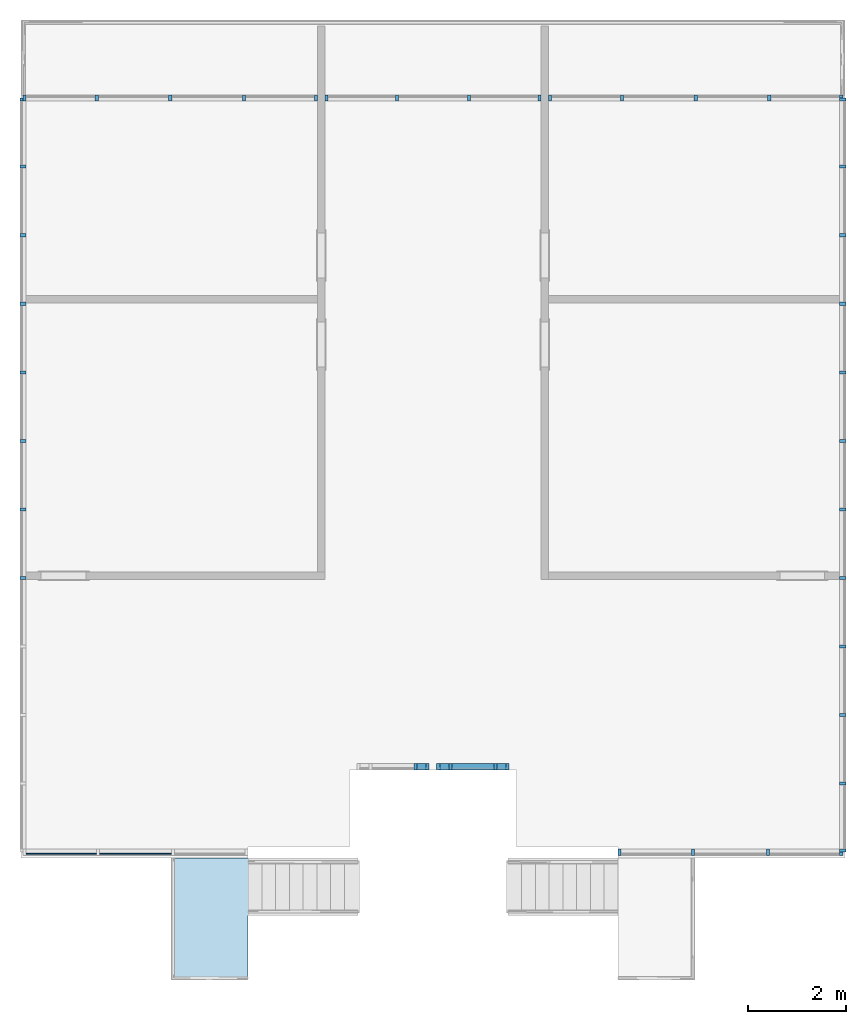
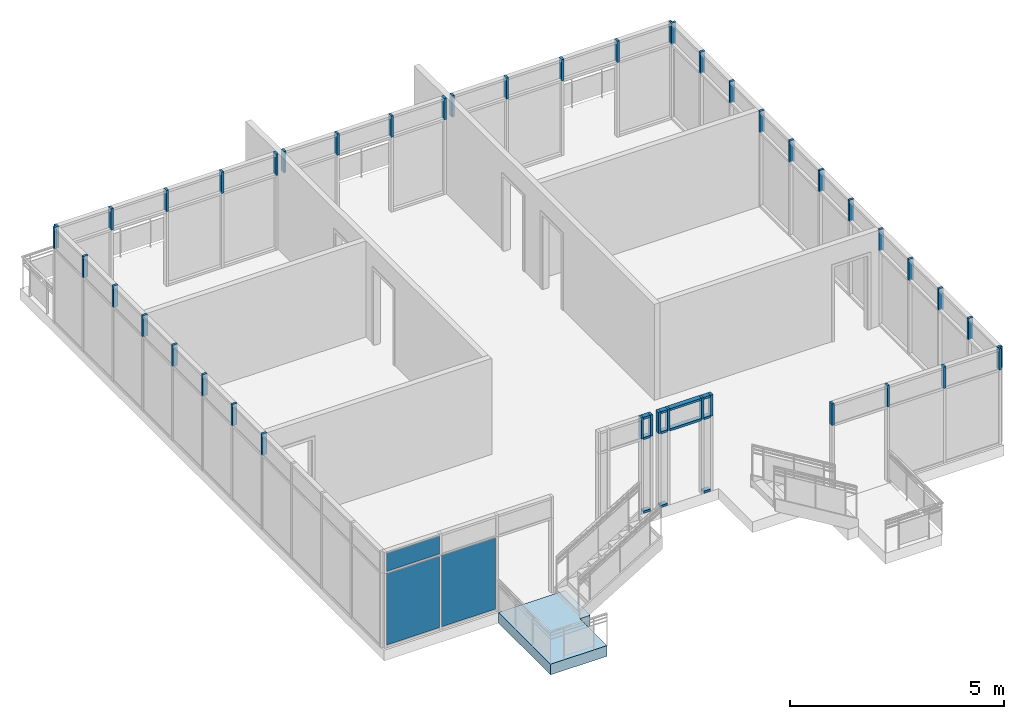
# One storey, part 4 of 11: 55 members, 3 plates, 1 slab, 9 elements without a shape of their own.
"""IFC2X3 building model written with IfcOpenShell, lengths in feet."""

import ifcopenshell
import ifcopenshell.guid

model = None  # the IFC model being written
_history = None  # IfcOwnerHistory: only IFC2X3 demands one
_inside = {}  # id of a spatial element -> (the spatial element, [elements in it])
_under = {}  # id of a project, library or spatial element -> (it, [spatial elements below it])
_declared = {}  # id of a project -> (the project, [libraries it declares])
_typed = {}  # id of a type object -> (the type object, [elements of that type])
_made_of = {}  # id of a material, layer set ... -> (it, [elements and type objects made of it])


def new_model(schema):
    """Start an empty IFC model of exactly this schema.

    Asked for "IFC4X3", IfcOpenShell would pick the latest addendum, in which some entities
    have other attributes; the version numbers below select the first issue.
    IFC2X3 requires an IfcOwnerHistory on every rooted entity: one is made here for all.
    """
    global model, _history
    if schema == "IFC4X3":
        model = ifcopenshell.file(schema_version=(4, 3, 0, 0))
    else:
        model = ifcopenshell.file(schema=schema)
    _inside.clear()
    _under.clear()
    _declared.clear()
    _typed.clear()
    _made_of.clear()
    _history = None
    if model.schema == "IFC2X3":
        org = make("IfcOrganization", Name="unknown")
        user = make(
            "IfcPersonAndOrganization",
            ThePerson=make("IfcPerson", FamilyName="unknown"),
            TheOrganization=org,
        )
        app = make(
            "IfcApplication",
            ApplicationDeveloper=org,
            Version="unknown",
            ApplicationFullName="unknown",
            ApplicationIdentifier="unknown",
        )
        _history = make(
            "IfcOwnerHistory",
            OwningUser=user,
            OwningApplication=app,
            ChangeAction="ADDED",
            CreationDate=0,
        )
    return model


def make(cls, **values):
    """One entity of the class cls with the attributes given. An attribute that is None is left unset."""
    return model.create_entity(
        cls, **{name: value for name, value in values.items() if value is not None}
    )


def entity(cls, *values):
    """Any entity or typed value of the class cls, its attributes in the order of the schema. None: left unset."""
    e = model.create_entity(cls)
    for i, value in enumerate(values):
        if value is not None:
            e[i] = value
    return e


def rooted(cls, **values):
    """An entity with a GlobalId (a new one), such as an element, a storey or a relation."""
    return make(cls, GlobalId=ifcopenshell.guid.new(), OwnerHistory=_history, **values)


def si_unit(unit_type, name, prefix=None):
    """IfcSIUnit, for example si_unit("LENGTHUNIT", "METRE", prefix="MILLI")."""
    return make("IfcSIUnit", UnitType=unit_type, Prefix=prefix, Name=name)


def converted_unit(unit_type, name, factor, base, dimensions=None, offset=None):
    """IfcConversionBasedUnit, such as the inch: factor (a typed value) times the base unit."""
    return make(
        "IfcConversionBasedUnit"
        if offset is None
        else "IfcConversionBasedUnitWithOffset",
        ConversionOffset=offset,
        Dimensions=None
        if dimensions is None
        else entity("IfcDimensionalExponents", *dimensions),
        UnitType=unit_type,
        Name=name,
        ConversionFactor=make(
            "IfcMeasureWithUnit", ValueComponent=factor, UnitComponent=base
        ),
    )


def derived_unit(unit_type, elements):
    """IfcDerivedUnit: a product of units, each with its exponent."""
    return make(
        "IfcDerivedUnit",
        Elements=[
            make("IfcDerivedUnitElement", Unit=unit, Exponent=power)
            for unit, power in elements
        ],
        UnitType=unit_type,
    )


def assignment(units):
    """IfcUnitAssignment: the units of a project."""
    return None if units is None else make("IfcUnitAssignment", Units=units)


def point(xyz):
    """IfcCartesianPoint."""
    return None if xyz is None else make("IfcCartesianPoint", Coordinates=xyz)


def direction(xyz):
    """IfcDirection."""
    return None if xyz is None else make("IfcDirection", DirectionRatios=xyz)


def frame(location, z_axis=None, x_axis=None):
    """IfcAxis2Placement3D, a coordinate frame: its origin and axes. An axis left out is left unset."""
    return make(
        "IfcAxis2Placement3D",
        Location=point(location),
        Axis=direction(z_axis),
        RefDirection=direction(x_axis),
    )


def frame_2d(location, x_axis=None):
    """IfcAxis2Placement2D, a coordinate frame in the plane: its origin and x axis."""
    return make(
        "IfcAxis2Placement2D", Location=point(location), RefDirection=direction(x_axis)
    )


def origin():
    """The frame at (0, 0, 0) with its axes left unset."""
    return frame((0.0, 0.0, 0.0))


def origin_2d_with_axis():
    """The frame at (0, 0) in the plane with the x axis (1, 0) written out."""
    return frame_2d((0.0, 0.0), x_axis=(1.0, 0.0))


def place(relative_to, where):
    """IfcLocalPlacement: puts the frame where relative to a parent placement (None: the world)."""
    return make(
        "IfcLocalPlacement", PlacementRelTo=relative_to, RelativePlacement=where
    )


def context(
    kind, dimensions, precision=None, world=None, true_north=None, identifier=None
):
    """IfcGeometricRepresentationContext, for example the 3D "Model" context."""
    return make(
        "IfcGeometricRepresentationContext",
        ContextIdentifier=identifier,
        ContextType=kind,
        CoordinateSpaceDimension=dimensions,
        Precision=precision,
        WorldCoordinateSystem=world,
        TrueNorth=true_north,
    )


def subcontext(parent, identifier, kind, view, scale=None):
    """IfcGeometricRepresentationSubContext, for example "Body" below "Model"."""
    return make(
        "IfcGeometricRepresentationSubContext",
        ContextIdentifier=identifier,
        ContextType=kind,
        ParentContext=parent,
        TargetScale=scale,
        TargetView=view,
    )


def project(units=None, contexts=None):
    """IfcProject with its units and contexts."""
    return rooted(
        "IfcProject",
        Name="project",
        RepresentationContexts=contexts,
        UnitsInContext=assignment(units),
    )


def spatial(cls, under=None, at=None, **own):
    """A site, building, storey or space (cls), placed at a placement, below another one or the project."""
    s = rooted(cls, ObjectPlacement=at, **own)
    if under is not None:
        _under.setdefault(under.id(), (under, []))[1].append(s)
    return s


def polyline(points):
    """IfcPolyline through the points."""
    return make("IfcPolyline", Points=[point(p) for p in points])


def profile(cls, at=None, kind="AREA", **sizes):
    """A parametric profile (cls). Its sizes go by their IFC names, for example OverallWidth=200.0."""
    return make(cls, ProfileType=kind, Position=at, **sizes)


def rectangle(**sizes):
    """IfcRectangleProfileDef."""
    return profile("IfcRectangleProfileDef", **sizes)


def outline(outer, holes=None, kind="AREA"):
    """IfcArbitraryClosedProfileDef: a profile drawn as a closed curve; with holes, ...WithVoids."""
    if holes is None:
        return make("IfcArbitraryClosedProfileDef", ProfileType=kind, OuterCurve=outer)
    return make(
        "IfcArbitraryProfileDefWithVoids",
        ProfileType=kind,
        OuterCurve=outer,
        InnerCurves=holes,
    )


def extrude(swept, where, along, depth):
    """IfcExtrudedAreaSolid: the profile swept, set in the frame where, extruded along a direction by depth."""
    return make(
        "IfcExtrudedAreaSolid",
        SweptArea=swept,
        Position=where,
        ExtrudedDirection=direction(along),
        Depth=depth,
    )


def shape(context_of_items, identifier, shape_type, items):
    """IfcShapeRepresentation: the items that make up one representation, for example the "Body"."""
    return make(
        "IfcShapeRepresentation",
        ContextOfItems=context_of_items,
        RepresentationIdentifier=identifier,
        RepresentationType=shape_type,
        Items=items,
    )


def source(mapping_origin, context_of_items, identifier, shape_type, items):
    """IfcRepresentationMap: a shape defined once, which mapped items show again and again."""
    return make(
        "IfcRepresentationMap",
        MappingOrigin=mapping_origin,
        MappedRepresentation=shape(context_of_items, identifier, shape_type, items),
    )


def transform(
    local_origin,
    x_axis=None,
    y_axis=None,
    z_axis=None,
    scale=None,
    scale2=None,
    scale3=None,
    uniform=True,
):
    """IfcCartesianTransformationOperator3D, or its non-uniform kind. x_axis, y_axis, z_axis: its Axis1, 2, 3."""
    if uniform:
        return make(
            "IfcCartesianTransformationOperator3D",
            Axis1=direction(x_axis),
            Axis2=direction(y_axis),
            LocalOrigin=point(local_origin),
            Scale=scale,
            Axis3=direction(z_axis),
        )
    return make(
        "IfcCartesianTransformationOperator3DnonUniform",
        Axis1=direction(x_axis),
        Axis2=direction(y_axis),
        LocalOrigin=point(local_origin),
        Scale=scale,
        Axis3=direction(z_axis),
        Scale2=scale2,
        Scale3=scale3,
    )


def mapped(mapping_source, mapping_target):
    """IfcMappedItem: shows the shape of a source again, moved by a transform."""
    return make(
        "IfcMappedItem", MappingSource=mapping_source, MappingTarget=mapping_target
    )


def material(Name=None, Category=None):
    """IfcMaterial."""
    return make("IfcMaterial", Name=Name, Category=Category)


def layer(
    of_material, thickness, ventilated=None, Name=None, Category=None, Priority=None
):
    """IfcMaterialLayer: one layer of a wall or slab, of a material (None: an air gap)."""
    return make(
        "IfcMaterialLayer",
        Material=of_material,
        LayerThickness=thickness,
        IsVentilated=ventilated,
        Name=Name,
        Category=Category,
        Priority=Priority,
    )


def layer_set(layers, Name=None):
    """IfcMaterialLayerSet."""
    return make("IfcMaterialLayerSet", MaterialLayers=layers, LayerSetName=Name)


def layer_usage(for_layer_set, set_direction, sense, offset, extent=None):
    """IfcMaterialLayerSetUsage: how a layer set lies in its element."""
    return make(
        "IfcMaterialLayerSetUsage",
        ForLayerSet=for_layer_set,
        LayerSetDirection=set_direction,
        DirectionSense=sense,
        OffsetFromReferenceLine=offset,
        ReferenceExtent=extent,
    )


def made_of(thing, what):
    """Note that an element or type object is made of a material, layer set ...; save() writes the relation."""
    if what is not None:
        _made_of.setdefault(what.id(), (what, []))[1].append(thing)
    return thing


def type_object(cls, material=None, **own):
    """A type object (cls), such as IfcWallType, which elements share."""
    return made_of(rooted(cls, **own), material)


def type_shapes(of_type, sources):
    """Give a type object the sources (RepresentationMaps) that its elements show as mapped items."""
    of_type.RepresentationMaps = sources


def element(
    cls,
    number,
    at=None,
    inside=None,
    cuts=None,
    type_object=None,
    material=None,
    context=None,
    identifier="Body",
    shape_type=None,
    held_by="IfcProductDefinitionShape",
    body=None,
    shapes=None,
    **own,
):
    """One element of the class cls, such as IfcWall. Its Tag is "e" and its number.

    at: its placement. inside: the storey or other place that contains it. cuts: it is an
    opening in that element (IfcRelVoidsElement). A single representation is given by context,
    identifier, shape_type and body (its items); several are given by shapes. held_by: the class
    of the entity that holds the representations. save() writes the other relations.
    """
    e = rooted(cls, Tag="e%d" % number, ObjectPlacement=at, **own)
    if body is not None:
        shapes = [shape(context, identifier, shape_type, body)]
    if shapes is not None:
        e.Representation = make(held_by, Representations=shapes)
    if inside is not None:
        _inside.setdefault(inside.id(), (inside, []))[1].append(e)
    if cuts is not None:
        rooted(
            "IfcRelVoidsElement", RelatingBuildingElement=cuts, RelatedOpeningElement=e
        )
    if type_object is not None:
        _typed.setdefault(type_object.id(), (type_object, []))[1].append(e)
    return made_of(e, material)


def aggregate(whole, parts):
    """IfcRelAggregates: a whole, such as a stair, and the parts it consists of."""
    return rooted("IfcRelAggregates", RelatingObject=whole, RelatedObjects=parts)


def save(model, path):
    """Write the relations noted so far, then the file.

    IfcRelAggregates (storeys below a building ...), IfcRelContainedInSpatialStructure (elements
    in a storey), IfcRelDefinesByType, IfcRelAssociatesMaterial and IfcRelDeclares: one each for
    every whole, place, type object, material and project.
    """
    for whole, parts in _under.values():
        aggregate(whole, parts)
    for where, things in _inside.values():
        rooted(
            "IfcRelContainedInSpatialStructure",
            RelatedElements=things,
            RelatingStructure=where,
        )
    for kind, things in _typed.values():
        rooted("IfcRelDefinesByType", RelatedObjects=things, RelatingType=kind)
    for what, things in _made_of.values():
        rooted("IfcRelAssociatesMaterial", RelatedObjects=things, RelatingMaterial=what)
    for by, libraries in _declared.values():
        rooted("IfcRelDeclares", RelatingContext=by, RelatedDefinitions=libraries)
    model.write(path)


model = new_model("IFC2X3")

# Units and contexts
model_context = context("Model", 3, precision=0.0001, world=origin(), true_north=direction((6.12303176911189e-17, 1.0)))
body_context = subcontext(model_context, "Body", "Model", "MODEL_VIEW")
ifc_project = project(units=[converted_unit("LENGTHUNIT", "FOOT", entity("IfcRatioMeasure", 0.3048), si_unit("LENGTHUNIT", "METRE"), dimensions=[1, 0, 0, 0, 0, 0, 0]), converted_unit("AREAUNIT", "SQUARE FOOT", entity("IfcRatioMeasure", 0.09290304), si_unit("AREAUNIT", "SQUARE_METRE"), dimensions=[2, 0, 0, 0, 0, 0, 0]), converted_unit("VOLUMEUNIT", "CUBIC FOOT", entity("IfcRatioMeasure", 0.028316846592), si_unit("VOLUMEUNIT", "CUBIC_METRE"), dimensions=[3, 0, 0, 0, 0, 0, 0]), converted_unit("PLANEANGLEUNIT", "DEGREE", entity("IfcRatioMeasure", 0.0174532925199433), si_unit("PLANEANGLEUNIT", "RADIAN"), dimensions=[0, 0, 0, 0, 0, 0, 0]), si_unit("MASSUNIT", "GRAM", prefix="KILO"), derived_unit("MASSDENSITYUNIT", [(si_unit("MASSUNIT", "GRAM", prefix="KILO"), 1), (si_unit("LENGTHUNIT", "METRE"), -3)]), si_unit("TIMEUNIT", "SECOND"), si_unit("FREQUENCYUNIT", "HERTZ"), si_unit("THERMODYNAMICTEMPERATUREUNIT", "DEGREE_CELSIUS"), derived_unit("THERMALTRANSMITTANCEUNIT", [(si_unit("MASSUNIT", "GRAM", prefix="KILO"), 1), (si_unit("THERMODYNAMICTEMPERATUREUNIT", "KELVIN"), -1), (si_unit("TIMEUNIT", "SECOND"), -3)]), derived_unit("VOLUMETRICFLOWRATEUNIT", [(si_unit("LENGTHUNIT", "METRE"), 3), (si_unit("TIMEUNIT", "SECOND"), -1)]), si_unit("ELECTRICCURRENTUNIT", "AMPERE"), si_unit("ELECTRICVOLTAGEUNIT", "VOLT"), si_unit("POWERUNIT", "WATT"), si_unit("FORCEUNIT", "NEWTON"), si_unit("ILLUMINANCEUNIT", "LUX"), si_unit("LUMINOUSFLUXUNIT", "LUMEN"), si_unit("LUMINOUSINTENSITYUNIT", "CANDELA"), derived_unit("USERDEFINED", [(si_unit("MASSUNIT", "GRAM", prefix="KILO"), -1), (si_unit("LENGTHUNIT", "METRE"), -2), (si_unit("TIMEUNIT", "SECOND"), 3), (si_unit("LUMINOUSFLUXUNIT", "LUMEN"), 1)]), derived_unit("LINEARVELOCITYUNIT", [(si_unit("LENGTHUNIT", "METRE"), 1), (si_unit("TIMEUNIT", "SECOND"), -1)]), si_unit("PRESSUREUNIT", "PASCAL"), derived_unit("USERDEFINED", [(si_unit("LENGTHUNIT", "METRE"), -2), (si_unit("MASSUNIT", "GRAM", prefix="KILO"), 1), (si_unit("TIMEUNIT", "SECOND"), -2)])], contexts=[model_context])

# Site, building, storey
site_placement = place(None, origin())
site = spatial("IfcSite", under=ifc_project, at=site_placement, Name="Default", CompositionType="ELEMENT")
building_placement = place(site_placement, origin())
building = spatial("IfcBuilding", under=site, at=building_placement, CompositionType="ELEMENT")
storey_placement = place(building_placement, frame((0.0, 0.0, 30.0)))
storey = spatial("IfcBuildingStorey", under=building, at=storey_placement, Name="L 5", CompositionType="ELEMENT", Elevation=29.9999999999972)

# Curtain wall, member
curtain_wall_type = type_object("IfcCurtainWallType", Name="Curtain Wall:Storefront 2", PredefinedType="NOTDEFINED")
curtain_wall_1_placement = place(storey_placement, frame((0.0, 0.0, -30.0)))
curtain_wall_1 = element("IfcCurtainWall", 1, at=curtain_wall_1_placement, inside=storey, type_object=curtain_wall_type, Name="Curtain Wall:Storefront 2", ObjectType="Curtain Wall:Storefront 2")
ifc_material_1 = material(Name="Aluminum")
member_type_1 = type_object("IfcMemberType", Name="2.5\" x 5\" rectangular", PredefinedType="MEMBER")
shared_shape_1 = source(origin(), body_context, "Body", "SweptSolid", [
    extrude(rectangle(XDim=0.416666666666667, YDim=0.208333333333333, at=origin_2d_with_axis()), frame((-0.104166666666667, 0.0, -2.0), z_axis=(0.0, 0.0, 1.0), x_axis=(0.0, -1.0, 0.0)), (0.0, 0.0, 1.0), 2.0),
])
type_shapes(member_type_1, [shared_shape_1])
member_1_placement = place(storey_placement, frame((-21.6584961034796, -6.94114126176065, 7.0), z_axis=(0.0, 0.0, -1.0), x_axis=(-1.0, 0.0, 0.0)))
member_1 = element("IfcMember", 2, at=member_1_placement, type_object=member_type_1, material=ifc_material_1, Name="Rectangular Mullion:2.5\" x 5\" rectangular", ObjectType="2.5\" x 5\" rectangular", context=body_context, shape_type="MappedRepresentation", body=[
    mapped(shared_shape_1, transform((0.0, 0.0, 0.0), scale=1.0)),
])

curtain_wall_2_placement = place(storey_placement, frame((0.0, 0.0, -30.0)))
curtain_wall_2 = element("IfcCurtainWall", 3, at=curtain_wall_2_placement, inside=storey, type_object=curtain_wall_type, Name="Curtain Wall:Storefront 2", ObjectType="Curtain Wall:Storefront 2")
member_2_placement = place(storey_placement, frame((-33.7418294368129, -1.23280792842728, 7.0), z_axis=(0.0, 0.0, -1.0), x_axis=(-1.0, 0.0, 0.0)))
member_2 = element("IfcMember", 4, at=member_2_placement, type_object=member_type_1, material=ifc_material_1, Name="Rectangular Mullion:2.5\" x 5\" rectangular", ObjectType="2.5\" x 5\" rectangular", context=body_context, shape_type="MappedRepresentation", body=[
    mapped(shared_shape_1, transform((0.0, 0.0, 0.0), scale=1.0)),
])

curtain_wall_3_placement = place(storey_placement, frame((0.0, 0.0, -30.0)))
curtain_wall_3 = element("IfcCurtainWall", 5, at=curtain_wall_3_placement, inside=storey, type_object=curtain_wall_type, Name="Curtain Wall:Storefront 2", ObjectType="Curtain Wall:Storefront 2")
member_3_placement = place(storey_placement, frame((-61.3251627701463, 43.3505254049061, 7.0), z_axis=(0.0, 0.0, -1.0), x_axis=(0.0, 1.0, 0.0)))
member_3 = element("IfcMember", 6, at=member_3_placement, type_object=member_type_1, material=ifc_material_1, Name="Rectangular Mullion:2.5\" x 5\" rectangular", ObjectType="2.5\" x 5\" rectangular", context=body_context, shape_type="MappedRepresentation", body=[
    mapped(shared_shape_1, transform((0.0, 0.0, 0.0), scale=1.0)),
])

curtain_wall_4_placement = place(storey_placement, frame((0.0, 0.0, -30.0)))
curtain_wall_4 = element("IfcCurtainWall", 7, at=curtain_wall_4_placement, inside=storey, type_object=curtain_wall_type, Name="Curtain Wall:Storefront 2", ObjectType="Curtain Wall:Storefront 2")
member_4_placement = place(storey_placement, frame((-41.6963748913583, 43.3505254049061, 7.0), z_axis=(0.0, 0.0, -1.0), x_axis=(1.0, 0.0, 0.0)))
member_4 = element("IfcMember", 8, at=member_4_placement, type_object=member_type_1, material=ifc_material_1, Name="Rectangular Mullion:2.5\" x 5\" rectangular", ObjectType="2.5\" x 5\" rectangular", context=body_context, shape_type="MappedRepresentation", body=[
    mapped(shared_shape_1, transform((0.0, 0.0, 0.0), scale=1.0)),
])

curtain_wall_5_placement = place(storey_placement, frame((0.0, 0.0, -30.0)))
curtain_wall_5 = element("IfcCurtainWall", 9, at=curtain_wall_5_placement, inside=storey, type_object=curtain_wall_type, Name="Curtain Wall:Storefront 2", ObjectType="Curtain Wall:Storefront 2")
member_5_placement = place(storey_placement, frame((-6.65849610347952, -6.9411412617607, 7.0), z_axis=(0.0, 0.0, -1.0), x_axis=(0.0, -1.0, 0.0)))
member_5 = element("IfcMember", 10, at=member_5_placement, type_object=member_type_1, material=ifc_material_1, Name="Rectangular Mullion:2.5\" x 5\" rectangular", ObjectType="2.5\" x 5\" rectangular", context=body_context, shape_type="MappedRepresentation", body=[
    mapped(shared_shape_1, transform((0.0, 0.0, 0.0), scale=1.0)),
])

curtain_wall_6_placement = place(storey_placement, frame((0.0, 0.0, -30.0)))
curtain_wall_6 = element("IfcCurtainWall", 11, at=curtain_wall_6_placement, inside=storey, type_object=curtain_wall_type, Name="Curtain Wall:Storefront 2", ObjectType="Curtain Wall:Storefront 2")
member_6_placement = place(storey_placement, frame((-6.65849610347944, 43.350525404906, 7.0), z_axis=(0.0, 0.0, -1.0), x_axis=(1.0, 0.0, 0.0)))
member_6 = element("IfcMember", 12, at=member_6_placement, type_object=member_type_1, material=ifc_material_1, Name="Rectangular Mullion:2.5\" x 5\" rectangular", ObjectType="2.5\" x 5\" rectangular", context=body_context, shape_type="MappedRepresentation", body=[
    mapped(shared_shape_1, transform((0.0, 0.0, 0.0), scale=1.0)),
])

curtain_wall_7_placement = place(storey_placement, frame((0.0, 0.0, -30.0)))
curtain_wall_7 = element("IfcCurtainWall", 13, at=curtain_wall_7_placement, inside=storey, type_object=curtain_wall_type, Name="Curtain Wall:Storefront 2", ObjectType="Curtain Wall:Storefront 2")
member_7_placement = place(storey_placement, frame((-26.7872839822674, 43.350525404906, 7.0), z_axis=(0.0, 0.0, -1.0), x_axis=(1.0, 0.0, 0.0)))
member_7 = element("IfcMember", 14, at=member_7_placement, type_object=member_type_1, material=ifc_material_1, Name="Rectangular Mullion:2.5\" x 5\" rectangular", ObjectType="2.5\" x 5\" rectangular", context=body_context, shape_type="MappedRepresentation", body=[
    mapped(shared_shape_1, transform((0.0, 0.0, 0.0), scale=1.0)),
])

# Member
member_type_2 = type_object("IfcMemberType", Name="2.5\" x 5\" rectangular", PredefinedType="MEMBER")
shared_shape_2 = source(origin(), body_context, "Body", "SweptSolid", [
    extrude(rectangle(XDim=0.416666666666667, YDim=0.208333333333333, at=origin_2d_with_axis()), frame((-0.104166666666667, 0.0, -2.0), z_axis=(0.0, 0.0, 1.0), x_axis=(0.0, -1.0, 0.0)), (0.0, 0.0, 1.0), 2.0),
])
type_shapes(member_type_2, [shared_shape_2])
member_8_placement = place(storey_placement, frame((-6.65849610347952, -6.94114126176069, 9.0)))
member_8 = element("IfcMember", 15, at=member_8_placement, type_object=member_type_2, material=ifc_material_1, Name="Rectangular Mullion:2.5\" x 5\" rectangular", ObjectType="2.5\" x 5\" rectangular", context=body_context, shape_type="MappedRepresentation", body=[
    mapped(shared_shape_2, transform((0.0, 0.0, 0.0), scale=1.0)),
])

# Curtain wall, member
curtain_wall_8_placement = place(storey_placement, frame((0.0, 0.0, -30.0)))
curtain_wall_8 = element("IfcCurtainWall", 16, at=curtain_wall_8_placement, inside=storey, type_object=curtain_wall_type, Name="Curtain Wall:Storefront 2", ObjectType="Curtain Wall:Storefront 2")
member_9_placement = place(storey_placement, frame((-34.2418294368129, -1.23280792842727, 9.0)))
member_9 = element("IfcMember", 17, at=member_9_placement, type_object=member_type_2, material=ifc_material_1, Name="Rectangular Mullion:2.5\" x 5\" rectangular", ObjectType="2.5\" x 5\" rectangular", context=body_context, shape_type="MappedRepresentation", body=[
    mapped(shared_shape_2, transform((0.0, 0.0, 0.0), scale=1.0)),
])

# Member
member_10_placement = place(storey_placement, frame((-28.9084961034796, -1.23280792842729, 9.0)))
member_10 = element("IfcMember", 18, at=member_10_placement, type_object=member_type_2, material=ifc_material_1, Name="Rectangular Mullion:2.5\" x 5\" rectangular", ObjectType="2.5\" x 5\" rectangular", context=body_context, shape_type="MappedRepresentation", body=[
    mapped(shared_shape_2, transform((0.0, 0.0, 0.0), scale=1.0)),
])

member_11_placement = place(storey_placement, frame((-61.3251627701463, 43.3505254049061, 9.0), z_axis=(0.0, 0.0, 1.0), x_axis=(-1.0, 0.0, 0.0)))
member_11 = element("IfcMember", 19, at=member_11_placement, type_object=member_type_2, material=ifc_material_1, Name="Rectangular Mullion:2.5\" x 5\" rectangular", ObjectType="2.5\" x 5\" rectangular", context=body_context, shape_type="MappedRepresentation", body=[
    mapped(shared_shape_2, transform((0.0, 0.0, 0.0), scale=1.0)),
])

member_12_placement = place(storey_placement, frame((-6.65849610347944, 43.350525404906, 9.0), z_axis=(0.0, 0.0, 1.0), x_axis=(0.0, 1.0, 0.0)))
member_12 = element("IfcMember", 20, at=member_12_placement, type_object=member_type_2, material=ifc_material_1, Name="Rectangular Mullion:2.5\" x 5\" rectangular", ObjectType="2.5\" x 5\" rectangular", context=body_context, shape_type="MappedRepresentation", body=[
    mapped(shared_shape_2, transform((0.0, 0.0, 0.0), scale=1.0)),
])

member_13_placement = place(storey_placement, frame((-26.2872839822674, 43.350525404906, 9.0), z_axis=(0.0, 0.0, 1.0), x_axis=(-1.0, 0.0, 0.0)))
member_13 = element("IfcMember", 21, at=member_13_placement, type_object=member_type_2, material=ifc_material_1, Name="Rectangular Mullion:2.5\" x 5\" rectangular", ObjectType="2.5\" x 5\" rectangular", context=body_context, shape_type="MappedRepresentation", body=[
    mapped(shared_shape_2, transform((0.0, 0.0, 0.0), scale=1.0)),
])

member_14_placement = place(storey_placement, frame((-41.1963748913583, 43.3505254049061, 9.0), z_axis=(0.0, 0.0, 1.0), x_axis=(-1.0, 0.0, 0.0)))
member_14 = element("IfcMember", 22, at=member_14_placement, type_object=member_type_2, material=ifc_material_1, Name="Rectangular Mullion:2.5\" x 5\" rectangular", ObjectType="2.5\" x 5\" rectangular", context=body_context, shape_type="MappedRepresentation", body=[
    mapped(shared_shape_2, transform((0.0, 0.0, 0.0), scale=1.0)),
])

member_type_3 = type_object("IfcMemberType", Name="2.5\" x 5\" rectangular", PredefinedType="MEMBER")
shared_shape_3 = source(origin(), body_context, "Body", "SweptSolid", [
    extrude(rectangle(XDim=0.416666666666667, YDim=0.208333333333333, at=origin_2d_with_axis()), frame((0.0, 0.0, -2.0), z_axis=(0.0, 0.0, 1.0), x_axis=(0.0, -1.0, 0.0)), (0.0, 0.0, 1.0), 2.0),
])
type_shapes(member_type_3, [shared_shape_3])
member_15_placement = place(storey_placement, frame((-11.6584961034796, -6.94114126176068, 7.0), z_axis=(0.0, 0.0, -1.0), x_axis=(-1.0, 0.0, 0.0)))
member_15 = element("IfcMember", 23, at=member_15_placement, type_object=member_type_3, material=ifc_material_1, Name="Rectangular Mullion:2.5\" x 5\" rectangular", ObjectType="2.5\" x 5\" rectangular", context=body_context, shape_type="MappedRepresentation", body=[
    mapped(shared_shape_3, transform((0.0, 0.0, 0.0), scale=1.0)),
])

member_16_placement = place(storey_placement, frame((-16.6584961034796, -6.94114126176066, 7.0), z_axis=(0.0, 0.0, -1.0), x_axis=(-1.0, 0.0, 0.0)))
member_16 = element("IfcMember", 24, at=member_16_placement, type_object=member_type_3, material=ifc_material_1, Name="Rectangular Mullion:2.5\" x 5\" rectangular", ObjectType="2.5\" x 5\" rectangular", context=body_context, shape_type="MappedRepresentation", body=[
    mapped(shared_shape_3, transform((0.0, 0.0, 0.0), scale=1.0)),
])

aggregate(curtain_wall_1, [member_1, member_8, member_15, member_16])

member_17_placement = place(storey_placement, frame((-35.1584961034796, -1.23280792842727, 7.0), z_axis=(0.0, 0.0, -1.0), x_axis=(-1.0, 0.0, 0.0)))
member_17 = element("IfcMember", 25, at=member_17_placement, type_object=member_type_3, material=ifc_material_1, Name="Rectangular Mullion:2.5\" x 5\" rectangular", ObjectType="2.5\" x 5\" rectangular", context=body_context, shape_type="MappedRepresentation", body=[
    mapped(shared_shape_3, transform((0.0, 0.0, 0.0), scale=1.0)),
])

member_18_placement = place(storey_placement, frame((-29.8251627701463, -1.23280792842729, 7.0), z_axis=(0.0, 0.0, -1.0), x_axis=(-1.0, 0.0, 0.0)))
member_18 = element("IfcMember", 26, at=member_18_placement, type_object=member_type_3, material=ifc_material_1, Name="Rectangular Mullion:2.5\" x 5\" rectangular", ObjectType="2.5\" x 5\" rectangular", context=body_context, shape_type="MappedRepresentation", body=[
    mapped(shared_shape_3, transform((0.0, 0.0, 0.0), scale=1.0)),
])

member_19_placement = place(storey_placement, frame((-32.8251627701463, -1.23280792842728, 7.0), z_axis=(0.0, 0.0, -1.0), x_axis=(-1.0, 0.0, 0.0)))
member_19 = element("IfcMember", 27, at=member_19_placement, type_object=member_type_3, material=ifc_material_1, Name="Rectangular Mullion:2.5\" x 5\" rectangular", ObjectType="2.5\" x 5\" rectangular", context=body_context, shape_type="MappedRepresentation", body=[
    mapped(shared_shape_3, transform((0.0, 0.0, 0.0), scale=1.0)),
])

member_20_placement = place(storey_placement, frame((-61.3251627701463, 11.3467375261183, 7.0), z_axis=(0.0, 0.0, -1.0), x_axis=(0.0, 1.0, 0.0)))
member_20 = element("IfcMember", 28, at=member_20_placement, type_object=member_type_3, material=ifc_material_1, Name="Rectangular Mullion:2.5\" x 5\" rectangular", ObjectType="2.5\" x 5\" rectangular", context=body_context, shape_type="MappedRepresentation", body=[
    mapped(shared_shape_3, transform((0.0, 0.0, 0.0), scale=1.0)),
])

member_21_placement = place(storey_placement, frame((-61.3251627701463, 15.918707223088, 7.0), z_axis=(0.0, 0.0, -1.0), x_axis=(0.0, 1.0, 0.0)))
member_21 = element("IfcMember", 29, at=member_21_placement, type_object=member_type_3, material=ifc_material_1, Name="Rectangular Mullion:2.5\" x 5\" rectangular", ObjectType="2.5\" x 5\" rectangular", context=body_context, shape_type="MappedRepresentation", body=[
    mapped(shared_shape_3, transform((0.0, 0.0, 0.0), scale=1.0)),
])

member_22_placement = place(storey_placement, frame((-61.3251627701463, 20.4906769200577, 7.0), z_axis=(0.0, 0.0, -1.0), x_axis=(0.0, 1.0, 0.0)))
member_22 = element("IfcMember", 30, at=member_22_placement, type_object=member_type_3, material=ifc_material_1, Name="Rectangular Mullion:2.5\" x 5\" rectangular", ObjectType="2.5\" x 5\" rectangular", context=body_context, shape_type="MappedRepresentation", body=[
    mapped(shared_shape_3, transform((0.0, 0.0, 0.0), scale=1.0)),
])

member_23_placement = place(storey_placement, frame((-61.3251627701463, 25.0626466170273, 7.0), z_axis=(0.0, 0.0, -1.0), x_axis=(0.0, 1.0, 0.0)))
member_23 = element("IfcMember", 31, at=member_23_placement, type_object=member_type_3, material=ifc_material_1, Name="Rectangular Mullion:2.5\" x 5\" rectangular", ObjectType="2.5\" x 5\" rectangular", context=body_context, shape_type="MappedRepresentation", body=[
    mapped(shared_shape_3, transform((0.0, 0.0, 0.0), scale=1.0)),
])

member_24_placement = place(storey_placement, frame((-61.3251627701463, 29.634616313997, 7.0), z_axis=(0.0, 0.0, -1.0), x_axis=(0.0, 1.0, 0.0)))
member_24 = element("IfcMember", 32, at=member_24_placement, type_object=member_type_3, material=ifc_material_1, Name="Rectangular Mullion:2.5\" x 5\" rectangular", ObjectType="2.5\" x 5\" rectangular", context=body_context, shape_type="MappedRepresentation", body=[
    mapped(shared_shape_3, transform((0.0, 0.0, 0.0), scale=1.0)),
])

member_25_placement = place(storey_placement, frame((-61.3251627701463, 34.2065860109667, 7.0), z_axis=(0.0, 0.0, -1.0), x_axis=(0.0, 1.0, 0.0)))
member_25 = element("IfcMember", 33, at=member_25_placement, type_object=member_type_3, material=ifc_material_1, Name="Rectangular Mullion:2.5\" x 5\" rectangular", ObjectType="2.5\" x 5\" rectangular", context=body_context, shape_type="MappedRepresentation", body=[
    mapped(shared_shape_3, transform((0.0, 0.0, 0.0), scale=1.0)),
])

member_26_placement = place(storey_placement, frame((-61.3251627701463, 38.7785557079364, 7.0), z_axis=(0.0, 0.0, -1.0), x_axis=(0.0, 1.0, 0.0)))
member_26 = element("IfcMember", 34, at=member_26_placement, type_object=member_type_3, material=ifc_material_1, Name="Rectangular Mullion:2.5\" x 5\" rectangular", ObjectType="2.5\" x 5\" rectangular", context=body_context, shape_type="MappedRepresentation", body=[
    mapped(shared_shape_3, transform((0.0, 0.0, 0.0), scale=1.0)),
])

aggregate(curtain_wall_3, [member_3, member_20, member_21, member_22, member_23, member_24, member_25, member_26])

member_27_placement = place(storey_placement, frame((-56.4179658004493, 43.3505254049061, 7.0), z_axis=(0.0, 0.0, -1.0), x_axis=(1.0, 0.0, 0.0)))
member_27 = element("IfcMember", 35, at=member_27_placement, type_object=member_type_3, material=ifc_material_1, Name="Rectangular Mullion:2.5\" x 5\" rectangular", ObjectType="2.5\" x 5\" rectangular", context=body_context, shape_type="MappedRepresentation", body=[
    mapped(shared_shape_3, transform((0.0, 0.0, 0.0), scale=1.0)),
])

member_28_placement = place(storey_placement, frame((-51.5107688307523, 43.3505254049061, 7.0), z_axis=(0.0, 0.0, -1.0), x_axis=(1.0, 0.0, 0.0)))
member_28 = element("IfcMember", 36, at=member_28_placement, type_object=member_type_3, material=ifc_material_1, Name="Rectangular Mullion:2.5\" x 5\" rectangular", ObjectType="2.5\" x 5\" rectangular", context=body_context, shape_type="MappedRepresentation", body=[
    mapped(shared_shape_3, transform((0.0, 0.0, 0.0), scale=1.0)),
])

member_29_placement = place(storey_placement, frame((-46.6035718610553, 43.3505254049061, 7.0), z_axis=(0.0, 0.0, -1.0), x_axis=(1.0, 0.0, 0.0)))
member_29 = element("IfcMember", 37, at=member_29_placement, type_object=member_type_3, material=ifc_material_1, Name="Rectangular Mullion:2.5\" x 5\" rectangular", ObjectType="2.5\" x 5\" rectangular", context=body_context, shape_type="MappedRepresentation", body=[
    mapped(shared_shape_3, transform((0.0, 0.0, 0.0), scale=1.0)),
])

aggregate(curtain_wall_4, [member_4, member_11, member_27, member_28, member_29])

member_30_placement = place(storey_placement, frame((-6.65849610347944, 38.7785557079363, 7.0), z_axis=(0.0, 0.0, -1.0), x_axis=(0.0, -1.0, 0.0)))
member_30 = element("IfcMember", 38, at=member_30_placement, type_object=member_type_3, material=ifc_material_1, Name="Rectangular Mullion:2.5\" x 5\" rectangular", ObjectType="2.5\" x 5\" rectangular", context=body_context, shape_type="MappedRepresentation", body=[
    mapped(shared_shape_3, transform((0.0, 0.0, 0.0), scale=1.0)),
])

member_31_placement = place(storey_placement, frame((-6.65849610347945, 34.2065860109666, 7.0), z_axis=(0.0, 0.0, -1.0), x_axis=(0.0, -1.0, 0.0)))
member_31 = element("IfcMember", 39, at=member_31_placement, type_object=member_type_3, material=ifc_material_1, Name="Rectangular Mullion:2.5\" x 5\" rectangular", ObjectType="2.5\" x 5\" rectangular", context=body_context, shape_type="MappedRepresentation", body=[
    mapped(shared_shape_3, transform((0.0, 0.0, 0.0), scale=1.0)),
])

member_32_placement = place(storey_placement, frame((-6.65849610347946, 29.6346163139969, 7.0), z_axis=(0.0, 0.0, -1.0), x_axis=(0.0, -1.0, 0.0)))
member_32 = element("IfcMember", 40, at=member_32_placement, type_object=member_type_3, material=ifc_material_1, Name="Rectangular Mullion:2.5\" x 5\" rectangular", ObjectType="2.5\" x 5\" rectangular", context=body_context, shape_type="MappedRepresentation", body=[
    mapped(shared_shape_3, transform((0.0, 0.0, 0.0), scale=1.0)),
])

member_33_placement = place(storey_placement, frame((-6.65849610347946, 25.0626466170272, 7.0), z_axis=(0.0, 0.0, -1.0), x_axis=(0.0, -1.0, 0.0)))
member_33 = element("IfcMember", 41, at=member_33_placement, type_object=member_type_3, material=ifc_material_1, Name="Rectangular Mullion:2.5\" x 5\" rectangular", ObjectType="2.5\" x 5\" rectangular", context=body_context, shape_type="MappedRepresentation", body=[
    mapped(shared_shape_3, transform((0.0, 0.0, 0.0), scale=1.0)),
])

member_34_placement = place(storey_placement, frame((-6.65849610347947, 20.4906769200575, 7.0), z_axis=(0.0, 0.0, -1.0), x_axis=(0.0, -1.0, 0.0)))
member_34 = element("IfcMember", 42, at=member_34_placement, type_object=member_type_3, material=ifc_material_1, Name="Rectangular Mullion:2.5\" x 5\" rectangular", ObjectType="2.5\" x 5\" rectangular", context=body_context, shape_type="MappedRepresentation", body=[
    mapped(shared_shape_3, transform((0.0, 0.0, 0.0), scale=1.0)),
])

member_35_placement = place(storey_placement, frame((-6.65849610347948, 15.9187072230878, 7.0), z_axis=(0.0, 0.0, -1.0), x_axis=(0.0, -1.0, 0.0)))
member_35 = element("IfcMember", 43, at=member_35_placement, type_object=member_type_3, material=ifc_material_1, Name="Rectangular Mullion:2.5\" x 5\" rectangular", ObjectType="2.5\" x 5\" rectangular", context=body_context, shape_type="MappedRepresentation", body=[
    mapped(shared_shape_3, transform((0.0, 0.0, 0.0), scale=1.0)),
])

member_36_placement = place(storey_placement, frame((-6.65849610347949, 11.3467375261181, 7.0), z_axis=(0.0, 0.0, -1.0), x_axis=(0.0, -1.0, 0.0)))
member_36 = element("IfcMember", 44, at=member_36_placement, type_object=member_type_3, material=ifc_material_1, Name="Rectangular Mullion:2.5\" x 5\" rectangular", ObjectType="2.5\" x 5\" rectangular", context=body_context, shape_type="MappedRepresentation", body=[
    mapped(shared_shape_3, transform((0.0, 0.0, 0.0), scale=1.0)),
])

member_37_placement = place(storey_placement, frame((-6.65849610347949, 6.77476782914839, 7.0), z_axis=(0.0, 0.0, -1.0), x_axis=(0.0, -1.0, 0.0)))
member_37 = element("IfcMember", 45, at=member_37_placement, type_object=member_type_3, material=ifc_material_1, Name="Rectangular Mullion:2.5\" x 5\" rectangular", ObjectType="2.5\" x 5\" rectangular", context=body_context, shape_type="MappedRepresentation", body=[
    mapped(shared_shape_3, transform((0.0, 0.0, 0.0), scale=1.0)),
])

member_38_placement = place(storey_placement, frame((-6.6584961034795, 2.20279813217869, 7.0), z_axis=(0.0, 0.0, -1.0), x_axis=(0.0, -1.0, 0.0)))
member_38 = element("IfcMember", 46, at=member_38_placement, type_object=member_type_3, material=ifc_material_1, Name="Rectangular Mullion:2.5\" x 5\" rectangular", ObjectType="2.5\" x 5\" rectangular", context=body_context, shape_type="MappedRepresentation", body=[
    mapped(shared_shape_3, transform((0.0, 0.0, 0.0), scale=1.0)),
])

member_39_placement = place(storey_placement, frame((-6.65849610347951, -2.369171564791, 7.0), z_axis=(0.0, 0.0, -1.0), x_axis=(0.0, -1.0, 0.0)))
member_39 = element("IfcMember", 47, at=member_39_placement, type_object=member_type_3, material=ifc_material_1, Name="Rectangular Mullion:2.5\" x 5\" rectangular", ObjectType="2.5\" x 5\" rectangular", context=body_context, shape_type="MappedRepresentation", body=[
    mapped(shared_shape_3, transform((0.0, 0.0, 0.0), scale=1.0)),
])

aggregate(curtain_wall_5, [member_5, member_12, member_30, member_31, member_32, member_33, member_34, member_35, member_36, member_37, member_38, member_39])

member_40_placement = place(storey_placement, frame((-21.3800870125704, 43.350525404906, 7.0), z_axis=(0.0, 0.0, -1.0), x_axis=(1.0, 0.0, 0.0)))
member_40 = element("IfcMember", 48, at=member_40_placement, type_object=member_type_3, material=ifc_material_1, Name="Rectangular Mullion:2.5\" x 5\" rectangular", ObjectType="2.5\" x 5\" rectangular", context=body_context, shape_type="MappedRepresentation", body=[
    mapped(shared_shape_3, transform((0.0, 0.0, 0.0), scale=1.0)),
])

member_41_placement = place(storey_placement, frame((-16.4728900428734, 43.350525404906, 7.0), z_axis=(0.0, 0.0, -1.0), x_axis=(1.0, 0.0, 0.0)))
member_41 = element("IfcMember", 49, at=member_41_placement, type_object=member_type_3, material=ifc_material_1, Name="Rectangular Mullion:2.5\" x 5\" rectangular", ObjectType="2.5\" x 5\" rectangular", context=body_context, shape_type="MappedRepresentation", body=[
    mapped(shared_shape_3, transform((0.0, 0.0, 0.0), scale=1.0)),
])

member_42_placement = place(storey_placement, frame((-11.5656930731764, 43.350525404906, 7.0), z_axis=(0.0, 0.0, -1.0), x_axis=(1.0, 0.0, 0.0)))
member_42 = element("IfcMember", 50, at=member_42_placement, type_object=member_type_3, material=ifc_material_1, Name="Rectangular Mullion:2.5\" x 5\" rectangular", ObjectType="2.5\" x 5\" rectangular", context=body_context, shape_type="MappedRepresentation", body=[
    mapped(shared_shape_3, transform((0.0, 0.0, 0.0), scale=1.0)),
])

aggregate(curtain_wall_6, [member_6, member_13, member_40, member_41, member_42])

member_43_placement = place(storey_placement, frame((-36.393344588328, 43.3505254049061, 7.0), z_axis=(0.0, 0.0, -1.0), x_axis=(1.0, 0.0, 0.0)))
member_43 = element("IfcMember", 51, at=member_43_placement, type_object=member_type_3, material=ifc_material_1, Name="Rectangular Mullion:2.5\" x 5\" rectangular", ObjectType="2.5\" x 5\" rectangular", context=body_context, shape_type="MappedRepresentation", body=[
    mapped(shared_shape_3, transform((0.0, 0.0, 0.0), scale=1.0)),
])

member_44_placement = place(storey_placement, frame((-31.5903142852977, 43.350525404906, 7.0), z_axis=(0.0, 0.0, -1.0), x_axis=(1.0, 0.0, 0.0)))
member_44 = element("IfcMember", 52, at=member_44_placement, type_object=member_type_3, material=ifc_material_1, Name="Rectangular Mullion:2.5\" x 5\" rectangular", ObjectType="2.5\" x 5\" rectangular", context=body_context, shape_type="MappedRepresentation", body=[
    mapped(shared_shape_3, transform((0.0, 0.0, 0.0), scale=1.0)),
])

aggregate(curtain_wall_7, [member_7, member_14, member_43, member_44])

member_type_4 = type_object("IfcMemberType", Name="2.5\" x 5\" rectangular", PredefinedType="MEMBER")
shared_shape_4 = source(origin(), body_context, "Body", "SweptSolid", [
    extrude(rectangle(XDim=0.416666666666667, YDim=0.208333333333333, at=origin_2d_with_axis()), frame((-0.104166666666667, 0.0, -0.604166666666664), z_axis=(0.0, 0.0, 1.0), x_axis=(0.0, -1.0, 0.0)), (0.0, 0.0, 1.0), 0.604166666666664),
])
type_shapes(member_type_4, [shared_shape_4])
member_45_placement = place(storey_placement, frame((-35.0543294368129, -1.23280792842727, 9.0), z_axis=(-1.0, 0.0, 0.0), x_axis=(0.0, 0.0, 1.0)))
member_45 = element("IfcMember", 53, at=member_45_placement, type_object=member_type_4, material=ifc_material_1, Name="Rectangular Mullion:2.5\" x 5\" rectangular", ObjectType="2.5\" x 5\" rectangular", context=body_context, shape_type="MappedRepresentation", body=[
    mapped(shared_shape_4, transform((0.0, 0.0, 0.0), scale=1.0)),
])

member_46_placement = place(storey_placement, frame((-33.5334961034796, -1.23280792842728, 9.0), z_axis=(-1.0, 0.0, 0.0), x_axis=(0.0, 0.0, 1.0)))
member_46 = element("IfcMember", 54, at=member_46_placement, type_object=member_type_4, material=ifc_material_1, Name="Rectangular Mullion:2.5\" x 5\" rectangular", ObjectType="2.5\" x 5\" rectangular", context=body_context, shape_type="MappedRepresentation", body=[
    mapped(shared_shape_4, transform((0.0, 0.0, 0.0), scale=1.0)),
])

member_47_placement = place(storey_placement, frame((-29.7209961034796, -1.23280792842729, 9.0), z_axis=(-1.0, 0.0, 0.0), x_axis=(0.0, 0.0, 1.0)))
member_47 = element("IfcMember", 55, at=member_47_placement, type_object=member_type_4, material=ifc_material_1, Name="Rectangular Mullion:2.5\" x 5\" rectangular", ObjectType="2.5\" x 5\" rectangular", context=body_context, shape_type="MappedRepresentation", body=[
    mapped(shared_shape_4, transform((0.0, 0.0, 0.0), scale=1.0)),
])

member_type_5 = type_object("IfcMemberType", Name="2.5\" x 5\" rectangular", PredefinedType="MEMBER")
shared_shape_5 = source(origin(), body_context, "Body", "SweptSolid", [
    extrude(rectangle(XDim=0.416666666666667, YDim=0.208333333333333, at=origin_2d_with_axis()), frame((-0.104166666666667, 0.0, -0.604166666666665), z_axis=(0.0, 0.0, 1.0), x_axis=(0.0, -1.0, 0.0)), (0.0, 0.0, 1.0), 0.604166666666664),
])
type_shapes(member_type_5, [shared_shape_5])
member_48_placement = place(storey_placement, frame((-34.4501627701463, -1.23280792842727, 0.0), z_axis=(1.0, 0.0, 0.0), x_axis=(0.0, 0.0, -1.0)))
member_48 = element("IfcMember", 56, at=member_48_placement, type_object=member_type_5, material=ifc_material_1, Name="Rectangular Mullion:2.5\" x 5\" rectangular", ObjectType="2.5\" x 5\" rectangular", context=body_context, shape_type="MappedRepresentation", body=[
    mapped(shared_shape_5, transform((0.0, 0.0, 0.0), scale=1.0)),
])

member_49_placement = place(storey_placement, frame((-29.1168294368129, -1.23280792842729, 0.0), z_axis=(1.0, 0.0, 0.0), x_axis=(0.0, 0.0, -1.0)))
member_49 = element("IfcMember", 57, at=member_49_placement, type_object=member_type_5, material=ifc_material_1, Name="Rectangular Mullion:2.5\" x 5\" rectangular", ObjectType="2.5\" x 5\" rectangular", context=body_context, shape_type="MappedRepresentation", body=[
    mapped(shared_shape_5, transform((0.0, 0.0, 0.0), scale=1.0)),
])

member_50_placement = place(storey_placement, frame((-32.9293294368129, -1.23280792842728, 0.0), z_axis=(1.0, 0.0, 0.0), x_axis=(0.0, 0.0, -1.0)))
member_50 = element("IfcMember", 58, at=member_50_placement, type_object=member_type_5, material=ifc_material_1, Name="Rectangular Mullion:2.5\" x 5\" rectangular", ObjectType="2.5\" x 5\" rectangular", context=body_context, shape_type="MappedRepresentation", body=[
    mapped(shared_shape_5, transform((0.0, 0.0, 0.0), scale=1.0)),
])

member_type_6 = type_object("IfcMemberType", Name="2.5\" x 5\" rectangular", PredefinedType="MEMBER")
shared_shape_6 = source(origin(), body_context, "Body", "SweptSolid", [
    extrude(rectangle(XDim=0.416666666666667, YDim=0.208333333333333, at=origin_2d_with_axis()), frame((0.0, 0.0, -0.604166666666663), z_axis=(0.0, 0.0, 1.0), x_axis=(0.0, -1.0, 0.0)), (0.0, 0.0, 1.0), 0.604166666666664),
])
type_shapes(member_type_6, [shared_shape_6])
member_51_placement = place(storey_placement, frame((-35.0543294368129, -1.23280792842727, 7.0), z_axis=(-1.0, 0.0, 0.0), x_axis=(0.0, 0.0, 1.0)))
member_51 = element("IfcMember", 59, at=member_51_placement, type_object=member_type_6, material=ifc_material_1, Name="Rectangular Mullion:2.5\" x 5\" rectangular", ObjectType="2.5\" x 5\" rectangular", context=body_context, shape_type="MappedRepresentation", body=[
    mapped(shared_shape_6, transform((0.0, 0.0, 0.0), scale=1.0)),
])

aggregate(curtain_wall_8, [member_48, member_9, member_51, member_45, member_17])

member_52_placement = place(storey_placement, frame((-29.7209961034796, -1.23280792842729, 7.0), z_axis=(-1.0, 0.0, 0.0), x_axis=(0.0, 0.0, 1.0)))
member_52 = element("IfcMember", 60, at=member_52_placement, type_object=member_type_6, material=ifc_material_1, Name="Rectangular Mullion:2.5\" x 5\" rectangular", ObjectType="2.5\" x 5\" rectangular", context=body_context, shape_type="MappedRepresentation", body=[
    mapped(shared_shape_6, transform((0.0, 0.0, 0.0), scale=1.0)),
])

member_53_placement = place(storey_placement, frame((-33.5334961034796, -1.23280792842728, 7.0), z_axis=(-1.0, 0.0, 0.0), x_axis=(0.0, 0.0, 1.0)))
member_53 = element("IfcMember", 61, at=member_53_placement, type_object=member_type_6, material=ifc_material_1, Name="Rectangular Mullion:2.5\" x 5\" rectangular", ObjectType="2.5\" x 5\" rectangular", context=body_context, shape_type="MappedRepresentation", body=[
    mapped(shared_shape_6, transform((0.0, 0.0, 0.0), scale=1.0)),
])

member_type_7 = type_object("IfcMemberType", Name="2.5\" x 5\" rectangular", PredefinedType="MEMBER")
shared_shape_7 = source(origin(), body_context, "Body", "SweptSolid", [
    extrude(rectangle(XDim=0.416666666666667, YDim=0.208333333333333, at=origin_2d_with_axis()), frame((0.0, 0.0, -2.79166666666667), z_axis=(0.0, 0.0, 1.0), x_axis=(0.0, -1.0, 0.0)), (0.0, 0.0, 1.0), 2.79166666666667),
])
type_shapes(member_type_7, [shared_shape_7])
member_54_placement = place(storey_placement, frame((-32.7209961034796, -1.23280792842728, 7.0), z_axis=(-1.0, 0.0, 0.0), x_axis=(0.0, 0.0, 1.0)))
member_54 = element("IfcMember", 62, at=member_54_placement, type_object=member_type_7, material=ifc_material_1, Name="Rectangular Mullion:2.5\" x 5\" rectangular", ObjectType="2.5\" x 5\" rectangular", context=body_context, shape_type="MappedRepresentation", body=[
    mapped(shared_shape_7, transform((0.0, 0.0, 0.0), scale=1.0)),
])

member_type_8 = type_object("IfcMemberType", Name="2.5\" x 5\" rectangular", PredefinedType="MEMBER")
shared_shape_8 = source(origin(), body_context, "Body", "SweptSolid", [
    extrude(rectangle(XDim=0.416666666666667, YDim=0.208333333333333, at=origin_2d_with_axis()), frame((-0.104166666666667, 0.0, -2.79166666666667), z_axis=(0.0, 0.0, 1.0), x_axis=(0.0, -1.0, 0.0)), (0.0, 0.0, 1.0), 2.79166666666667),
])
type_shapes(member_type_8, [shared_shape_8])
member_55_placement = place(storey_placement, frame((-32.7209961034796, -1.23280792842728, 9.0), z_axis=(-1.0, 0.0, 0.0), x_axis=(0.0, 0.0, 1.0)))
member_55 = element("IfcMember", 63, at=member_55_placement, type_object=member_type_8, material=ifc_material_1, Name="Rectangular Mullion:2.5\" x 5\" rectangular", ObjectType="2.5\" x 5\" rectangular", context=body_context, shape_type="MappedRepresentation", body=[
    mapped(shared_shape_8, transform((0.0, 0.0, 0.0), scale=1.0)),
])

aggregate(curtain_wall_2, [member_46, member_49, member_2, member_10, member_52, member_47, member_54, member_18, member_55, member_50, member_53, member_19])

# Curtain wall, plates
curtain_wall_9_placement = place(storey_placement, frame((0.0, 0.0, -30.0)))
curtain_wall_9 = element("IfcCurtainWall", 64, at=curtain_wall_9_placement, inside=storey, type_object=curtain_wall_type, Name="Curtain Wall:Storefront 2", ObjectType="Curtain Wall:Storefront 2")
ifc_material_2 = material(Name="<Unnamed>")
ifc_layer_1 = layer(ifc_material_2, 0.0833333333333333)
ifc_layer_set_1 = layer_set([ifc_layer_1], Name="Curtain Wall:Storefront")
ifc_layer_usage_1 = layer_usage(ifc_layer_set_1, "AXIS3", "POSITIVE", 0.104166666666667)
plate_type_1 = type_object("IfcPlateType", Name="Glazed", PredefinedType="CURTAIN_PANEL", material=ifc_layer_set_1)
shared_shape_9 = source(origin(), body_context, "Body", "SweptSolid", [
    extrude(rectangle(XDim=0.0833333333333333, YDim=4.6875, at=frame_2d((-6.93889390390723e-18, 0.0), x_axis=(1.0, 0.0))), frame((0.0, 0.104166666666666, 0.0), z_axis=(0.0, 0.0, 1.0), x_axis=(0.0, 1.0, 0.0)), (0.0, 0.0, 1.0), 6.6875),
])
type_shapes(plate_type_1, [shared_shape_9])
plate_1_placement = place(curtain_wall_9_placement, frame((-58.7730794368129, -6.94114126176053, 30.208333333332), z_axis=(0.0, 0.0, 1.0), x_axis=(-1.0, 0.0, 0.0)))
plate_1 = element("IfcPlate", 65, at=plate_1_placement, type_object=plate_type_1, material=ifc_layer_usage_1, Name="System Panel:Glazed", ObjectType="Glazed", context=body_context, shape_type="MappedRepresentation", body=[
    mapped(shared_shape_9, transform((0.0, 0.0, 0.0), scale=1.0)),
])
ifc_layer_usage_2 = layer_usage(ifc_layer_set_1, "AXIS3", "POSITIVE", 0.104166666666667)
plate_type_2 = type_object("IfcPlateType", Name="Glazed", PredefinedType="CURTAIN_PANEL", material=ifc_layer_set_1)
shared_shape_10 = source(origin(), body_context, "Body", "SweptSolid", [
    extrude(rectangle(XDim=0.0833333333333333, YDim=4.6875, at=frame_2d((-6.93889390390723e-18, 0.0), x_axis=(1.0, 0.0))), frame((0.0, 0.104166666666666, 0.0), z_axis=(0.0, 0.0, 1.0), x_axis=(0.0, 1.0, 0.0)), (0.0, 0.0, 1.0), 1.6875),
])
type_shapes(plate_type_2, [shared_shape_10])
plate_2_placement = place(curtain_wall_9_placement, frame((-58.7730794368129, -6.94114126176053, 37.1041666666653), z_axis=(0.0, 0.0, 1.0), x_axis=(-1.0, 0.0, 0.0)))
plate_2 = element("IfcPlate", 66, at=plate_2_placement, type_object=plate_type_2, material=ifc_layer_usage_2, Name="System Panel:Glazed", ObjectType="Glazed", context=body_context, shape_type="MappedRepresentation", body=[
    mapped(shared_shape_10, transform((0.0, 0.0, 0.0), scale=1.0)),
])
ifc_layer_usage_3 = layer_usage(ifc_layer_set_1, "AXIS3", "POSITIVE", 0.104166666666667)
plate_type_3 = type_object("IfcPlateType", Name="Glazed", PredefinedType="CURTAIN_PANEL", material=ifc_layer_set_1)
shared_shape_11 = source(origin(), body_context, "Body", "SweptSolid", [
    extrude(rectangle(XDim=0.0833333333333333, YDim=4.79166666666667, at=frame_2d((-6.93889390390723e-18, 0.0), x_axis=(1.0, 0.0))), frame((0.0, 0.104166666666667, 0.0), z_axis=(0.0, 0.0, 1.0), x_axis=(0.0, 1.0, 0.0)), (0.0, 0.0, 1.0), 6.6875),
])
type_shapes(plate_type_3, [shared_shape_11])
plate_3_placement = place(curtain_wall_9_placement, frame((-53.8251627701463, -6.94114126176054, 30.208333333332), z_axis=(0.0, 0.0, 1.0), x_axis=(-1.0, 0.0, 0.0)))
plate_3 = element("IfcPlate", 67, at=plate_3_placement, type_object=plate_type_3, material=ifc_layer_usage_3, Name="System Panel:Glazed", ObjectType="Glazed", context=body_context, shape_type="MappedRepresentation", body=[
    mapped(shared_shape_11, transform((0.0, 0.0, 0.0), scale=1.0)),
])
aggregate(curtain_wall_9, [plate_3, plate_1, plate_2])

# Slab
ifc_material_3 = material(Name="Concrete, Cast-in-Place gray")
ifc_layer_2 = layer(ifc_material_3, 1.0)
ifc_layer_set_2 = layer_set([ifc_layer_2], Name="Floor:Generic - 12\"")
ifc_layer_usage_4 = layer_usage(ifc_layer_set_2, "AXIS3", "POSITIVE", 0.0)
slab_placement = place(storey_placement, origin())
element("IfcSlab", 68, at=slab_placement, inside=storey, material=ifc_layer_usage_4, Name="Floor:Generic - 12\"", ObjectType="Floor:Generic - 12\"", PredefinedType="FLOOR", context=body_context, shape_type="SweptSolid", body=[
    extrude(outline(polyline([(-4.05555555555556, -3.63888888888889), (3.94444444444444, -3.63888888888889), (3.94444444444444, 2.27777777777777), (0.111111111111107, 2.27777777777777), (0.111111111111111, 1.3611111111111), (-4.05555555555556, 1.36111111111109), (-4.05555555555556, -3.63888888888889)])), frame((-47.6862738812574, -11.2814190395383, 0.0), z_axis=(0.0, 0.0, -1.0), x_axis=(0.0, 1.0, 0.0)), (0.0, 0.0, 1.0), 1.0),
])

save(model, "model.ifc")
